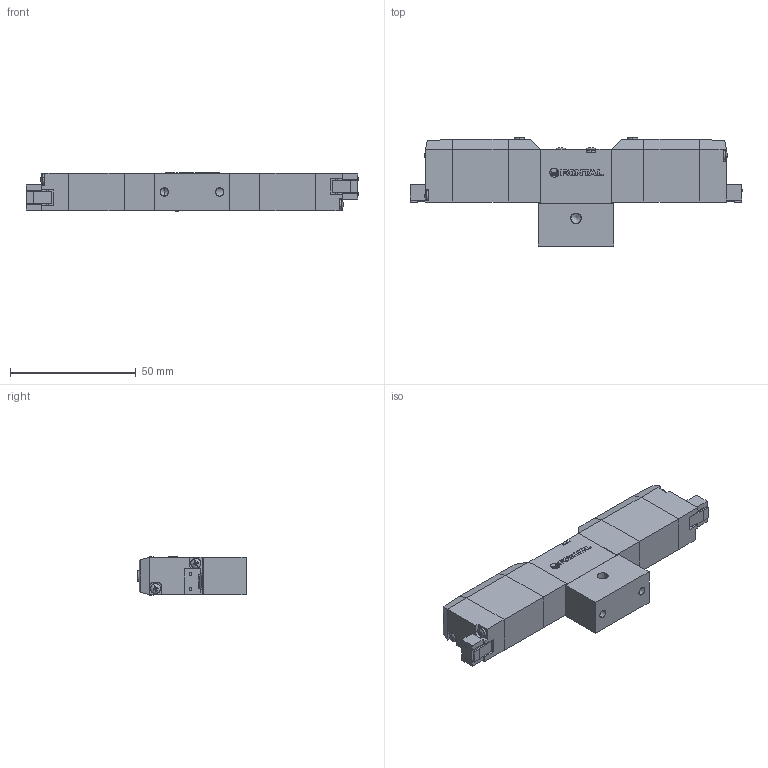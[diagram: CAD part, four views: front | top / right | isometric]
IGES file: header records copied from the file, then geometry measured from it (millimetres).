
Start section: SolidWorks IGES file using analytic representation for surfaces
Global section: file name: D:\Custom\3D繪製\PC\PC5\PCD245#-M5-#-SP-#.IGS,1; native system: 5HSolidWorks 2014; preprocessor: SolidWorks 2014; author: Chieh_Lu; date: 150729.231816; units: millimetre
Bounding box: 132 x 43 x 15.4 mm (x, y, z)
Surface area: 21145.6 mm2 (no closed solid volume)
Topology: 0 solids, 0 shells, 618 faces, 5202 edges, 5176 vertices
Faces by surface type: bspline 423, revolution 195
